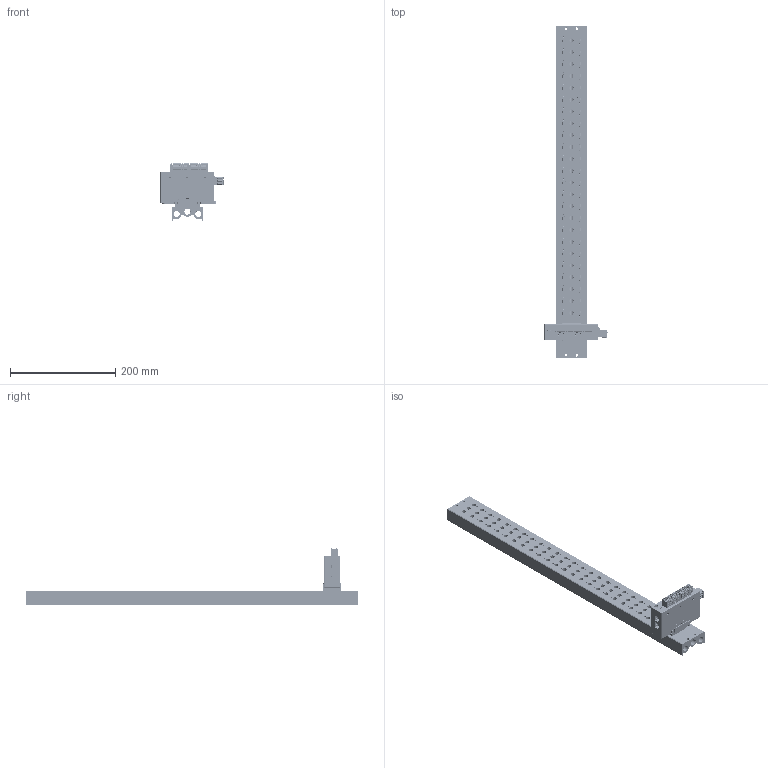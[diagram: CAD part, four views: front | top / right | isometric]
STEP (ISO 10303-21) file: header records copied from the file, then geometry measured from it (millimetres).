
FILE_DESCRIPTION(/* description */ (''),/* implementation_level */ '2;1');
FILE_NAME(/* name */ '',/* time_stamp */ '2025-10-09T15:30:21+08:00',/* author */ (''),/* organization */ (''),/* preprocessor_version */ 'ST-DEVELOPER v14',/* originating_system */ 'SIEMENS PLM Software NX 8.0',/* authorisation */ '');
FILE_SCHEMA (('AP203_CONFIGURATION_CONTROLLED_3D_DESIGN_OF_MECHANICAL_PARTS_AND_ASSEMBLIES_MIM_LF { 1 0 10303 403 2 1 2}'));
Products named in the file (1): DELL3E5857E9ub5u
Bounding box: 119.8 x 631 x 108.48 mm (x, y, z)
Volume: 764222.1 mm3; surface area: 262982.8 mm2
Topology: 2 solids, 228 shells, 10110 faces, 26777 edges, 17432 vertices
Faces by surface type: plane 6526, cylinder 2357, torus 336, bspline 329, cone 286, extrusion 181, sphere 95
Full cylindrical faces by diameter (mm): 0.18 x2, 2.5 x53, 3.05 x40, 3.3 x3, 3.5 x4, 4 x4, 4.5 x4, 6 x4, 8 x72, 9.6 x1, 11.492 x1, 11.5 x5, 11.8 x6
Entity records: 333636 total; most frequent: CARTESIAN_POINT 85616, ORIENTED_EDGE 52102, DIRECTION 49325, EDGE_CURVE 26051, VECTOR 18423, LINE 18242, VERTEX_POINT 17268, AXIS2_PLACEMENT_3D 15451
